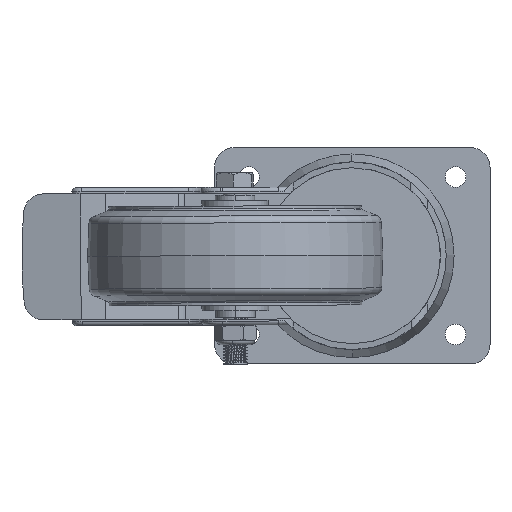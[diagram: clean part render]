
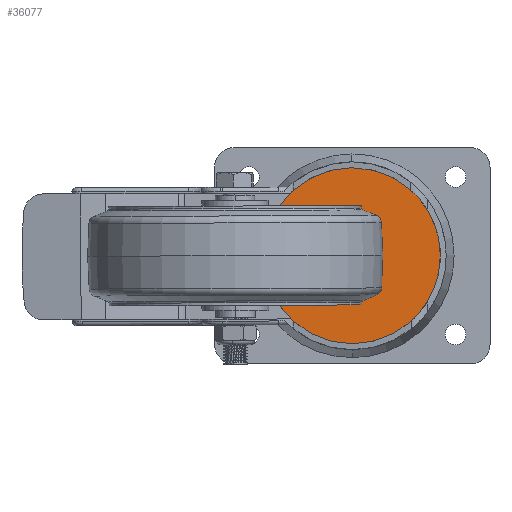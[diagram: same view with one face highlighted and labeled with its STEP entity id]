
A CAD part, front view. The second image highlights one B-rep face of the part: STEP entity #36077.
In plain terms, the highlighted planar face has unit normal (0, -1, 0) as drawn and (0, 1, 0) by its records, which use the part's own axes.
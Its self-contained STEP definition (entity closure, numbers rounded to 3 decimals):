
#232 = CARTESIAN_POINT ( 'NONE',  ( 0., 3., 0. ) ) ;
#1826 = EDGE_LOOP ( 'NONE', ( #40411, #29876 ) ) ;
#2717 = VERTEX_POINT ( 'NONE', #40983 ) ;
#3176 = AXIS2_PLACEMENT_3D ( 'NONE', #30296, #46096, #42483 ) ;
#5360 = EDGE_CURVE ( 'NONE', #2717, #8368, #51248, .T. ) ;
#5667 = DIRECTION ( 'NONE',  ( 0., 0., 1. ) ) ;
#5712 = CIRCLE ( 'NONE', #40496, 9. ) ;
#8343 = AXIS2_PLACEMENT_3D ( 'NONE', #17313, #40656, #20448 ) ;
#8368 = VERTEX_POINT ( 'NONE', #42160 ) ;
#8722 = ORIENTED_EDGE ( 'NONE', *, *, #39659, .T. ) ;
#9191 = VERTEX_POINT ( 'NONE', #36871 ) ;
#17313 = CARTESIAN_POINT ( 'NONE',  ( 0., 3., 0. ) ) ;
#17526 = CIRCLE ( 'NONE', #37369, 9. ) ;
#19940 = ORIENTED_EDGE ( 'NONE', *, *, #5360, .T. ) ;
#20448 = DIRECTION ( 'NONE',  ( 0., 0., 1. ) ) ;
#20706 = PLANE ( 'NONE',  #8343 ) ;
#21494 = DIRECTION ( 'NONE',  ( 0., 1., 0. ) ) ;
#23835 = CARTESIAN_POINT ( 'NONE',  ( 0., 3., 0. ) ) ;
#25113 = FACE_BOUND ( 'NONE', #1826, .T. ) ;
#27432 = DIRECTION ( 'NONE',  ( 0., 0., 1. ) ) ;
#29636 = CARTESIAN_POINT ( 'NONE',  ( 0., 3., 0. ) ) ;
#29876 = ORIENTED_EDGE ( 'NONE', *, *, #43563, .F. ) ;
#30296 = CARTESIAN_POINT ( 'NONE',  ( 0., 3., 0. ) ) ;
#30429 = EDGE_CURVE ( 'NONE', #38930, #9191, #17526, .T. ) ;
#36077 = ADVANCED_FACE ( 'NONE', ( #25113, #40388 ), #20706, .T. ) ;
#36871 = CARTESIAN_POINT ( 'NONE',  ( 0., 3., 9. ) ) ;
#37369 = AXIS2_PLACEMENT_3D ( 'NONE', #232, #47371, #27432 ) ;
#38930 = VERTEX_POINT ( 'NONE', #44685 ) ;
#39082 = CIRCLE ( 'NONE', #46558, 44.75 ) ;
#39659 = EDGE_CURVE ( 'NONE', #8368, #2717, #39082, .T. ) ;
#40388 = FACE_OUTER_BOUND ( 'NONE', #51011, .T. ) ;
#40411 = ORIENTED_EDGE ( 'NONE', *, *, #30429, .F. ) ;
#40496 = AXIS2_PLACEMENT_3D ( 'NONE', #29636, #49565, #41817 ) ;
#40656 = DIRECTION ( 'NONE',  ( 0., 1., 0. ) ) ;
#40983 = CARTESIAN_POINT ( 'NONE',  ( 0., 3., 44.75 ) ) ;
#41817 = DIRECTION ( 'NONE',  ( 0., 0., 1. ) ) ;
#42160 = CARTESIAN_POINT ( 'NONE',  ( 0., 3., -44.75 ) ) ;
#42483 = DIRECTION ( 'NONE',  ( 0., 0., 1. ) ) ;
#43563 = EDGE_CURVE ( 'NONE', #9191, #38930, #5712, .T. ) ;
#44685 = CARTESIAN_POINT ( 'NONE',  ( 0., 3., -9. ) ) ;
#46096 = DIRECTION ( 'NONE',  ( 0., 1., 0. ) ) ;
#46558 = AXIS2_PLACEMENT_3D ( 'NONE', #23835, #21494, #5667 ) ;
#47371 = DIRECTION ( 'NONE',  ( 0., 1., 0. ) ) ;
#49565 = DIRECTION ( 'NONE',  ( 0., 1., 0. ) ) ;
#51011 = EDGE_LOOP ( 'NONE', ( #8722, #19940 ) ) ;
#51248 = CIRCLE ( 'NONE', #3176, 44.75 ) ;
